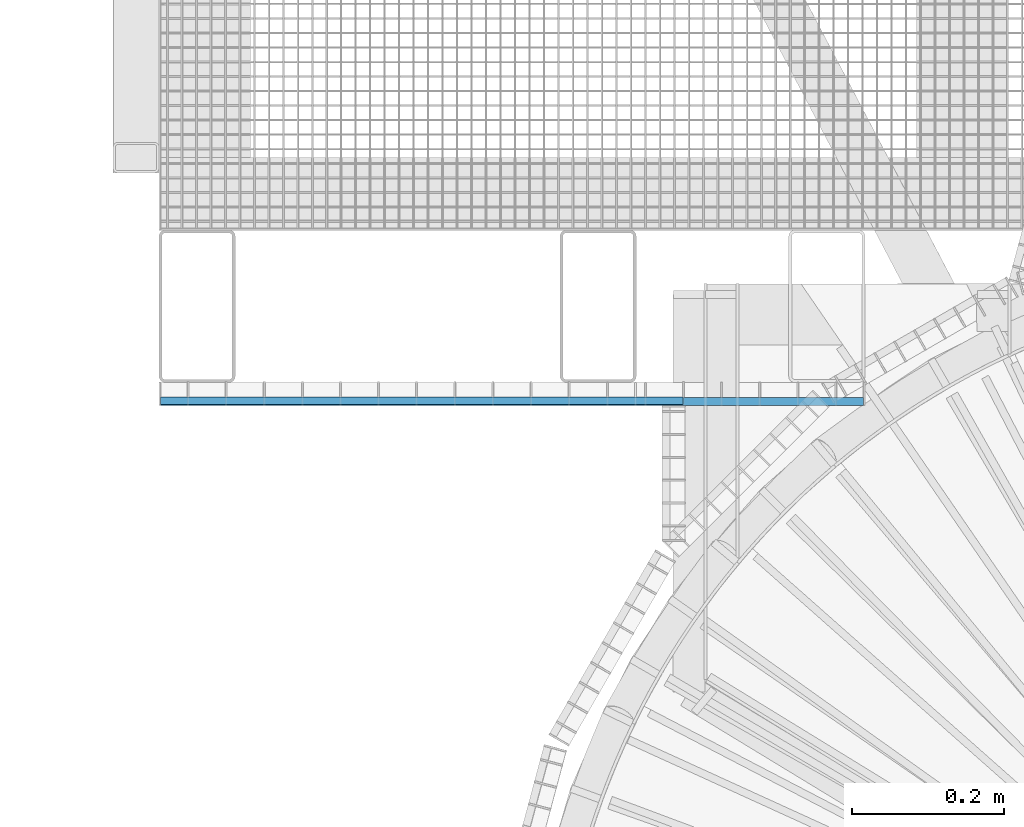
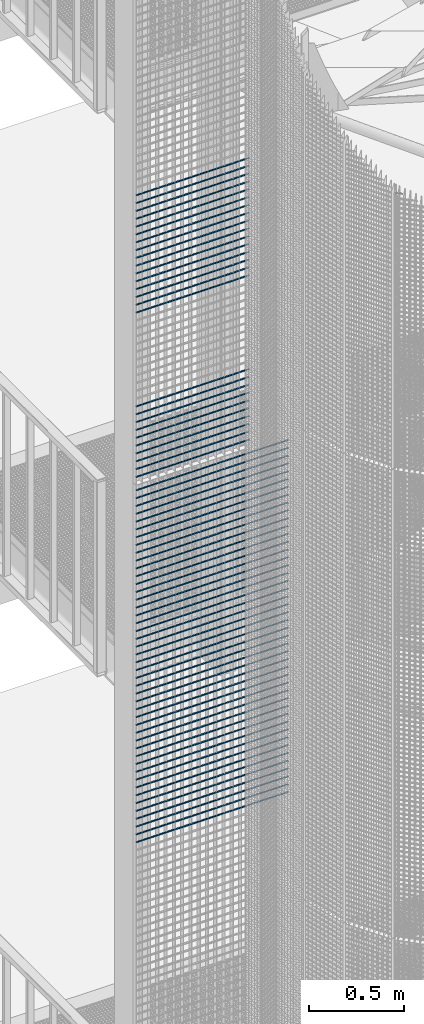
# One storey, part 214 of 1183: 72 beams, 2 elements without a shape of their own.
"""IFC2X3 building model written with IfcOpenShell, lengths in millimetres."""

from ifc_helpers import new_model, si_unit, frame, origin_with_axes, origin_2d_with_axis, place, context, subcontext, project, spatial, rectangle, extrude, material, type_object, element, aggregate, save


model = new_model("IFC2X3")

# Units and contexts
model_context = context("Model", 3, precision=1e-05, world=origin_with_axes())
body_context = subcontext(model_context, "Body", "Model", "MODEL_VIEW")
ifc_project = project(units=[si_unit("LENGTHUNIT", "METRE", prefix="MILLI"), si_unit("AREAUNIT", "SQUARE_METRE"), si_unit("VOLUMEUNIT", "CUBIC_METRE"), si_unit("MASSUNIT", "GRAM", prefix="KILO"), si_unit("TIMEUNIT", "SECOND"), si_unit("PLANEANGLEUNIT", "RADIAN"), si_unit("SOLIDANGLEUNIT", "STERADIAN"), si_unit("THERMODYNAMICTEMPERATUREUNIT", "DEGREE_CELSIUS"), si_unit("LUMINOUSINTENSITYUNIT", "LUMEN")], contexts=[model_context])

# Site, building, storey
site_placement = place(None, origin_with_axes())
site = spatial("IfcSite", under=ifc_project, at=site_placement, Name="Undefined", CompositionType="ELEMENT")
building_placement = place(site_placement, origin_with_axes())
building = spatial("IfcBuilding", under=site, at=building_placement, Name="Undefined", CompositionType="ELEMENT")
storey_placement = place(building_placement, origin_with_axes())
storey = spatial("IfcBuildingStorey", under=building, at=storey_placement, Name="Undefined", CompositionType="ELEMENT", Elevation=0.0)

# Assembly, beams
assembly_1_placement = place(storey_placement, origin_with_axes())
assembly_1 = element("IfcElementAssembly", 1, at=assembly_1_placement, inside=storey, Name="BORDURE", AssemblyPlace="NOTDEFINED", PredefinedType="NOTDEFINED")
ifc_material = material(Name="STEEL/S235JR")
beam_type = type_object("IfcBeamType", Name="PL2*10", PredefinedType="NOTDEFINED")
beam_1_placement = place(assembly_1_placement, frame((-1547.92041016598, 875.994689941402, 12289.998), z_axis=(0.0, -1.0, 0.0), x_axis=(1.0, 0.0, 0.0)))
beam_1 = element("IfcBeam", 2, at=beam_1_placement, type_object=beam_type, material=ifc_material, Name="ENTRETOISE", context=body_context, shape_type="SweptSolid", body=[
    extrude(rectangle(XDim=2.0, YDim=10.0, at=origin_2d_with_axis()), frame((685.0, 0.0, 0.0), z_axis=(-1.0, 0.0, 0.0), x_axis=(0.0, -1.0, 0.0)), (0.0, 0.0, 1.0), 685.0),
])
beam_2_placement = place(assembly_1_placement, frame((-1547.92041016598, 875.994689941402, 11689.998), z_axis=(0.0, -1.0, 0.0), x_axis=(1.0, 0.0, 0.0)))
beam_2 = element("IfcBeam", 3, at=beam_2_placement, type_object=beam_type, material=ifc_material, Name="ENTRETOISE", context=body_context, shape_type="SweptSolid", body=[
    extrude(rectangle(XDim=2.0, YDim=10.0, at=origin_2d_with_axis()), frame((685.0, 0.0, 0.0), z_axis=(-1.0, 0.0, 0.0), x_axis=(0.0, -1.0, 0.0)), (0.0, 0.0, 1.0), 685.0),
])
beam_3_placement = place(assembly_1_placement, frame((-1547.92041016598, 875.994689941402, 12339.998), z_axis=(0.0, -1.0, 0.0), x_axis=(1.0, 0.0, 0.0)))
beam_3 = element("IfcBeam", 4, at=beam_3_placement, type_object=beam_type, material=ifc_material, Name="ENTRETOISE", context=body_context, shape_type="SweptSolid", body=[
    extrude(rectangle(XDim=2.0, YDim=10.0, at=origin_2d_with_axis()), frame((685.0, 0.0, 0.0), z_axis=(-1.0, 0.0, 0.0), x_axis=(0.0, -1.0, 0.0)), (0.0, 0.0, 1.0), 685.0),
])
beam_4_placement = place(assembly_1_placement, frame((-1547.92041016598, 875.994689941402, 12389.998), z_axis=(0.0, -1.0, 0.0), x_axis=(1.0, 0.0, 0.0)))
beam_4 = element("IfcBeam", 5, at=beam_4_placement, type_object=beam_type, material=ifc_material, Name="ENTRETOISE", context=body_context, shape_type="SweptSolid", body=[
    extrude(rectangle(XDim=2.0, YDim=10.0, at=origin_2d_with_axis()), frame((685.0, 0.0, 0.0), z_axis=(-1.0, 0.0, 0.0), x_axis=(0.0, -1.0, 0.0)), (0.0, 0.0, 1.0), 685.0),
])
beam_5_placement = place(assembly_1_placement, frame((-1547.92041016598, 875.994689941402, 11639.998), z_axis=(0.0, -1.0, 0.0), x_axis=(1.0, 0.0, 0.0)))
beam_5 = element("IfcBeam", 6, at=beam_5_placement, type_object=beam_type, material=ifc_material, Name="ENTRETOISE", context=body_context, shape_type="SweptSolid", body=[
    extrude(rectangle(XDim=2.0, YDim=10.0, at=origin_2d_with_axis()), frame((685.0, 0.0, 0.0), z_axis=(-1.0, 0.0, 0.0), x_axis=(0.0, -1.0, 0.0)), (0.0, 0.0, 1.0), 685.0),
])
beam_6_placement = place(assembly_1_placement, frame((-1547.92041016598, 875.994689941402, 12439.998), z_axis=(0.0, -1.0, 0.0), x_axis=(1.0, 0.0, 0.0)))
beam_6 = element("IfcBeam", 7, at=beam_6_placement, type_object=beam_type, material=ifc_material, Name="ENTRETOISE", context=body_context, shape_type="SweptSolid", body=[
    extrude(rectangle(XDim=2.0, YDim=10.0, at=origin_2d_with_axis()), frame((685.0, 0.0, 0.0), z_axis=(-1.0, 0.0, 0.0), x_axis=(0.0, -1.0, 0.0)), (0.0, 0.0, 1.0), 685.0),
])
beam_7_placement = place(assembly_1_placement, frame((-1547.92041016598, 875.994689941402, 12489.998), z_axis=(0.0, -1.0, 0.0), x_axis=(1.0, 0.0, 0.0)))
beam_7 = element("IfcBeam", 8, at=beam_7_placement, type_object=beam_type, material=ifc_material, Name="ENTRETOISE", context=body_context, shape_type="SweptSolid", body=[
    extrude(rectangle(XDim=2.0, YDim=10.0, at=origin_2d_with_axis()), frame((685.0, 0.0, 0.0), z_axis=(-1.0, 0.0, 0.0), x_axis=(0.0, -1.0, 0.0)), (0.0, 0.0, 1.0), 685.0),
])
beam_8_placement = place(assembly_1_placement, frame((-1547.92041016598, 875.994689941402, 11589.998), z_axis=(0.0, -1.0, 0.0), x_axis=(1.0, 0.0, 0.0)))
beam_8 = element("IfcBeam", 9, at=beam_8_placement, type_object=beam_type, material=ifc_material, Name="ENTRETOISE", context=body_context, shape_type="SweptSolid", body=[
    extrude(rectangle(XDim=2.0, YDim=10.0, at=origin_2d_with_axis()), frame((685.0, 0.0, 0.0), z_axis=(-1.0, 0.0, 0.0), x_axis=(0.0, -1.0, 0.0)), (0.0, 0.0, 1.0), 685.0),
])
beam_9_placement = place(assembly_1_placement, frame((-1547.92041016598, 875.994689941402, 12539.998), z_axis=(0.0, -1.0, 0.0), x_axis=(1.0, 0.0, 0.0)))
beam_9 = element("IfcBeam", 10, at=beam_9_placement, type_object=beam_type, material=ifc_material, Name="ENTRETOISE", context=body_context, shape_type="SweptSolid", body=[
    extrude(rectangle(XDim=2.0, YDim=10.0, at=origin_2d_with_axis()), frame((685.0, 0.0, 0.0), z_axis=(-1.0, 0.0, 0.0), x_axis=(0.0, -1.0, 0.0)), (0.0, 0.0, 1.0), 685.0),
])
beam_10_placement = place(assembly_1_placement, frame((-1547.92041016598, 875.994689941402, 11539.998), z_axis=(0.0, -1.0, 0.0), x_axis=(1.0, 0.0, 0.0)))
beam_10 = element("IfcBeam", 11, at=beam_10_placement, type_object=beam_type, material=ifc_material, Name="ENTRETOISE", context=body_context, shape_type="SweptSolid", body=[
    extrude(rectangle(XDim=2.0, YDim=10.0, at=origin_2d_with_axis()), frame((685.0, 0.0, 0.0), z_axis=(-1.0, 0.0, 0.0), x_axis=(0.0, -1.0, 0.0)), (0.0, 0.0, 1.0), 685.0),
])
beam_11_placement = place(assembly_1_placement, frame((-1547.92041016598, 875.994689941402, 12589.998), z_axis=(0.0, -1.0, 0.0), x_axis=(1.0, 0.0, 0.0)))
beam_11 = element("IfcBeam", 12, at=beam_11_placement, type_object=beam_type, material=ifc_material, Name="ENTRETOISE", context=body_context, shape_type="SweptSolid", body=[
    extrude(rectangle(XDim=2.0, YDim=10.0, at=origin_2d_with_axis()), frame((685.0, 0.0, 0.0), z_axis=(-1.0, 0.0, 0.0), x_axis=(0.0, -1.0, 0.0)), (0.0, 0.0, 1.0), 685.0),
])
beam_12_placement = place(assembly_1_placement, frame((-1547.92041016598, 875.994689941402, 12639.998), z_axis=(0.0, -1.0, 0.0), x_axis=(1.0, 0.0, 0.0)))
beam_12 = element("IfcBeam", 13, at=beam_12_placement, type_object=beam_type, material=ifc_material, Name="ENTRETOISE", context=body_context, shape_type="SweptSolid", body=[
    extrude(rectangle(XDim=2.0, YDim=10.0, at=origin_2d_with_axis()), frame((685.0, 0.0, 0.0), z_axis=(-1.0, 0.0, 0.0), x_axis=(0.0, -1.0, 0.0)), (0.0, 0.0, 1.0), 685.0),
])
beam_13_placement = place(assembly_1_placement, frame((-1547.92041016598, 875.994689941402, 11489.998), z_axis=(0.0, -1.0, 0.0), x_axis=(1.0, 0.0, 0.0)))
beam_13 = element("IfcBeam", 14, at=beam_13_placement, type_object=beam_type, material=ifc_material, Name="ENTRETOISE", context=body_context, shape_type="SweptSolid", body=[
    extrude(rectangle(XDim=2.0, YDim=10.0, at=origin_2d_with_axis()), frame((685.0, 0.0, 0.0), z_axis=(-1.0, 0.0, 0.0), x_axis=(0.0, -1.0, 0.0)), (0.0, 0.0, 1.0), 685.0),
])
beam_14_placement = place(assembly_1_placement, frame((-1547.92041016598, 875.994689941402, 12689.998), z_axis=(0.0, -1.0, 0.0), x_axis=(1.0, 0.0, 0.0)))
beam_14 = element("IfcBeam", 15, at=beam_14_placement, type_object=beam_type, material=ifc_material, Name="ENTRETOISE", context=body_context, shape_type="SweptSolid", body=[
    extrude(rectangle(XDim=2.0, YDim=10.0, at=origin_2d_with_axis()), frame((685.0, 0.0, 0.0), z_axis=(-1.0, 0.0, 0.0), x_axis=(0.0, -1.0, 0.0)), (0.0, 0.0, 1.0), 685.0),
])
beam_15_placement = place(assembly_1_placement, frame((-1547.92041016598, 875.994689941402, 11439.998), z_axis=(0.0, -1.0, 0.0), x_axis=(1.0, 0.0, 0.0)))
beam_15 = element("IfcBeam", 16, at=beam_15_placement, type_object=beam_type, material=ifc_material, Name="ENTRETOISE", context=body_context, shape_type="SweptSolid", body=[
    extrude(rectangle(XDim=2.0, YDim=10.0, at=origin_2d_with_axis()), frame((685.0, 0.0, 0.0), z_axis=(-1.0, 0.0, 0.0), x_axis=(0.0, -1.0, 0.0)), (0.0, 0.0, 1.0), 685.0),
])
beam_16_placement = place(assembly_1_placement, frame((-1547.92041016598, 875.994689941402, 12739.998), z_axis=(0.0, -1.0, 0.0), x_axis=(1.0, 0.0, 0.0)))
beam_16 = element("IfcBeam", 17, at=beam_16_placement, type_object=beam_type, material=ifc_material, Name="ENTRETOISE", context=body_context, shape_type="SweptSolid", body=[
    extrude(rectangle(XDim=2.0, YDim=10.0, at=origin_2d_with_axis()), frame((685.0, 0.0, 0.0), z_axis=(-1.0, 0.0, 0.0), x_axis=(0.0, -1.0, 0.0)), (0.0, 0.0, 1.0), 685.0),
])
beam_17_placement = place(assembly_1_placement, frame((-1547.92041016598, 875.994689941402, 12789.998), z_axis=(0.0, -1.0, 0.0), x_axis=(1.0, 0.0, 0.0)))
beam_17 = element("IfcBeam", 18, at=beam_17_placement, type_object=beam_type, material=ifc_material, Name="ENTRETOISE", context=body_context, shape_type="SweptSolid", body=[
    extrude(rectangle(XDim=2.0, YDim=10.0, at=origin_2d_with_axis()), frame((685.0, 0.0, 0.0), z_axis=(-1.0, 0.0, 0.0), x_axis=(0.0, -1.0, 0.0)), (0.0, 0.0, 1.0), 685.0),
])
beam_18_placement = place(assembly_1_placement, frame((-1547.92041016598, 875.994689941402, 11389.998), z_axis=(0.0, -1.0, 0.0), x_axis=(1.0, 0.0, 0.0)))
beam_18 = element("IfcBeam", 19, at=beam_18_placement, type_object=beam_type, material=ifc_material, Name="ENTRETOISE", context=body_context, shape_type="SweptSolid", body=[
    extrude(rectangle(XDim=2.0, YDim=10.0, at=origin_2d_with_axis()), frame((685.0, 0.0, 0.0), z_axis=(-1.0, 0.0, 0.0), x_axis=(0.0, -1.0, 0.0)), (0.0, 0.0, 1.0), 685.0),
])
beam_19_placement = place(assembly_1_placement, frame((-1547.92041016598, 875.994689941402, 12839.998), z_axis=(0.0, -1.0, 0.0), x_axis=(1.0, 0.0, 0.0)))
beam_19 = element("IfcBeam", 20, at=beam_19_placement, type_object=beam_type, material=ifc_material, Name="ENTRETOISE", context=body_context, shape_type="SweptSolid", body=[
    extrude(rectangle(XDim=2.0, YDim=10.0, at=origin_2d_with_axis()), frame((685.0, 0.0, 0.0), z_axis=(-1.0, 0.0, 0.0), x_axis=(0.0, -1.0, 0.0)), (0.0, 0.0, 1.0), 685.0),
])
beam_20_placement = place(assembly_1_placement, frame((-1547.92041016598, 875.994689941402, 12889.998), z_axis=(0.0, -1.0, 0.0), x_axis=(1.0, 0.0, 0.0)))
beam_20 = element("IfcBeam", 21, at=beam_20_placement, type_object=beam_type, material=ifc_material, Name="ENTRETOISE", context=body_context, shape_type="SweptSolid", body=[
    extrude(rectangle(XDim=2.0, YDim=10.0, at=origin_2d_with_axis()), frame((685.0, 0.0, 0.0), z_axis=(-1.0, 0.0, 0.0), x_axis=(0.0, -1.0, 0.0)), (0.0, 0.0, 1.0), 685.0),
])
beam_21_placement = place(assembly_1_placement, frame((-1547.92041016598, 875.994689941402, 11339.998), z_axis=(0.0, -1.0, 0.0), x_axis=(1.0, 0.0, 0.0)))
beam_21 = element("IfcBeam", 22, at=beam_21_placement, type_object=beam_type, material=ifc_material, Name="ENTRETOISE", context=body_context, shape_type="SweptSolid", body=[
    extrude(rectangle(XDim=2.0, YDim=10.0, at=origin_2d_with_axis()), frame((685.0, 0.0, 0.0), z_axis=(-1.0, 0.0, 0.0), x_axis=(0.0, -1.0, 0.0)), (0.0, 0.0, 1.0), 685.0),
])
beam_22_placement = place(assembly_1_placement, frame((-1547.92041016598, 875.994689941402, 12939.998), z_axis=(0.0, -1.0, 0.0), x_axis=(1.0, 0.0, 0.0)))
beam_22 = element("IfcBeam", 23, at=beam_22_placement, type_object=beam_type, material=ifc_material, Name="ENTRETOISE", context=body_context, shape_type="SweptSolid", body=[
    extrude(rectangle(XDim=2.0, YDim=10.0, at=origin_2d_with_axis()), frame((685.0, 0.0, 0.0), z_axis=(-1.0, 0.0, 0.0), x_axis=(0.0, -1.0, 0.0)), (0.0, 0.0, 1.0), 685.0),
])
beam_23_placement = place(assembly_1_placement, frame((-1547.92041016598, 875.994689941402, 11289.998), z_axis=(0.0, -1.0, 0.0), x_axis=(1.0, 0.0, 0.0)))
beam_23 = element("IfcBeam", 24, at=beam_23_placement, type_object=beam_type, material=ifc_material, Name="ENTRETOISE", context=body_context, shape_type="SweptSolid", body=[
    extrude(rectangle(XDim=2.0, YDim=10.0, at=origin_2d_with_axis()), frame((685.0, 0.0, 0.0), z_axis=(-1.0, 0.0, 0.0), x_axis=(0.0, -1.0, 0.0)), (0.0, 0.0, 1.0), 685.0),
])
beam_24_placement = place(assembly_1_placement, frame((-1547.92041016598, 875.994689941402, 12989.998), z_axis=(0.0, -1.0, 0.0), x_axis=(1.0, 0.0, 0.0)))
beam_24 = element("IfcBeam", 25, at=beam_24_placement, type_object=beam_type, material=ifc_material, Name="ENTRETOISE", context=body_context, shape_type="SweptSolid", body=[
    extrude(rectangle(XDim=2.0, YDim=10.0, at=origin_2d_with_axis()), frame((685.0, 0.0, 0.0), z_axis=(-1.0, 0.0, 0.0), x_axis=(0.0, -1.0, 0.0)), (0.0, 0.0, 1.0), 685.0),
])
beam_25_placement = place(assembly_1_placement, frame((-1547.92041016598, 875.994689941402, 13039.998), z_axis=(0.0, -1.0, 0.0), x_axis=(1.0, 0.0, 0.0)))
beam_25 = element("IfcBeam", 26, at=beam_25_placement, type_object=beam_type, material=ifc_material, Name="ENTRETOISE", context=body_context, shape_type="SweptSolid", body=[
    extrude(rectangle(XDim=2.0, YDim=10.0, at=origin_2d_with_axis()), frame((685.0, 0.0, 0.0), z_axis=(-1.0, 0.0, 0.0), x_axis=(0.0, -1.0, 0.0)), (0.0, 0.0, 1.0), 685.0),
])
beam_26_placement = place(assembly_1_placement, frame((-1547.92041016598, 874.994689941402, 11239.998), z_axis=(0.0, -1.0, 0.0), x_axis=(1.0, 0.0, 0.0)))
beam_26 = element("IfcBeam", 27, at=beam_26_placement, type_object=beam_type, material=ifc_material, Name="ENTRETOISE", context=body_context, shape_type="SweptSolid", body=[
    extrude(rectangle(XDim=2.0, YDim=10.0, at=origin_2d_with_axis()), frame((685.0, 0.0, 0.0), z_axis=(-1.0, 0.0, 0.0), x_axis=(0.0, -1.0, 0.0)), (0.0, 0.0, 1.0), 685.0),
])
aggregate(assembly_1, [beam_1, beam_2, beam_3, beam_4, beam_5, beam_6, beam_7, beam_8, beam_9, beam_10, beam_11, beam_12, beam_13, beam_14, beam_15, beam_16, beam_17, beam_18, beam_19, beam_20, beam_21, beam_22, beam_23, beam_24, beam_25, beam_26])

assembly_2_placement = place(storey_placement, origin_with_axes())
assembly_2 = element("IfcElementAssembly", 28, at=assembly_2_placement, inside=storey, Name="BORDURE", AssemblyPlace="NOTDEFINED", PredefinedType="NOTDEFINED")
beam_27_placement = place(assembly_2_placement, frame((-1547.92041016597, 874.994689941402, 11154.998), z_axis=(0.0, -1.0, 0.0), x_axis=(1.0, 0.0, 0.0)))
beam_27 = element("IfcBeam", 29, at=beam_27_placement, type_object=beam_type, material=ifc_material, Name="ENTRETOISE", context=body_context, shape_type="SweptSolid", body=[
    extrude(rectangle(XDim=2.0, YDim=10.0, at=origin_2d_with_axis()), frame((922.0, 0.0, 0.0), z_axis=(-1.0, 0.0, 0.0), x_axis=(0.0, -1.0, 0.0)), (0.0, 0.0, 1.0), 922.0),
])
beam_28_placement = place(assembly_2_placement, frame((-1547.92041016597, 874.994689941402, 11104.998), z_axis=(0.0, -1.0, 0.0), x_axis=(1.0, 0.0, 0.0)))
beam_28 = element("IfcBeam", 30, at=beam_28_placement, type_object=beam_type, material=ifc_material, Name="ENTRETOISE", context=body_context, shape_type="SweptSolid", body=[
    extrude(rectangle(XDim=2.0, YDim=10.0, at=origin_2d_with_axis()), frame((922.0, 0.0, 0.0), z_axis=(-1.0, 0.0, 0.0), x_axis=(0.0, -1.0, 0.0)), (0.0, 0.0, 1.0), 922.0),
])
beam_29_placement = place(assembly_2_placement, frame((-1547.92041016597, 874.994689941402, 11054.998), z_axis=(0.0, -1.0, 0.0), x_axis=(1.0, 0.0, 0.0)))
beam_29 = element("IfcBeam", 31, at=beam_29_placement, type_object=beam_type, material=ifc_material, Name="ENTRETOISE", context=body_context, shape_type="SweptSolid", body=[
    extrude(rectangle(XDim=2.0, YDim=10.0, at=origin_2d_with_axis()), frame((922.0, 0.0, 0.0), z_axis=(-1.0, 0.0, 0.0), x_axis=(0.0, -1.0, 0.0)), (0.0, 0.0, 1.0), 922.0),
])
beam_30_placement = place(assembly_2_placement, frame((-1547.92041016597, 874.994689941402, 11004.998), z_axis=(0.0, -1.0, 0.0), x_axis=(1.0, 0.0, 0.0)))
beam_30 = element("IfcBeam", 32, at=beam_30_placement, type_object=beam_type, material=ifc_material, Name="ENTRETOISE", context=body_context, shape_type="SweptSolid", body=[
    extrude(rectangle(XDim=2.0, YDim=10.0, at=origin_2d_with_axis()), frame((922.0, 0.0, 0.0), z_axis=(-1.0, 0.0, 0.0), x_axis=(0.0, -1.0, 0.0)), (0.0, 0.0, 1.0), 922.0),
])
beam_31_placement = place(assembly_2_placement, frame((-1547.92041016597, 874.994689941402, 10954.998), z_axis=(0.0, -1.0, 0.0), x_axis=(1.0, 0.0, 0.0)))
beam_31 = element("IfcBeam", 33, at=beam_31_placement, type_object=beam_type, material=ifc_material, Name="ENTRETOISE", context=body_context, shape_type="SweptSolid", body=[
    extrude(rectangle(XDim=2.0, YDim=10.0, at=origin_2d_with_axis()), frame((922.0, 0.0, 0.0), z_axis=(-1.0, 0.0, 0.0), x_axis=(0.0, -1.0, 0.0)), (0.0, 0.0, 1.0), 922.0),
])
beam_32_placement = place(assembly_2_placement, frame((-1547.92041016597, 874.994689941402, 10904.998), z_axis=(0.0, -1.0, 0.0), x_axis=(1.0, 0.0, 0.0)))
beam_32 = element("IfcBeam", 34, at=beam_32_placement, type_object=beam_type, material=ifc_material, Name="ENTRETOISE", context=body_context, shape_type="SweptSolid", body=[
    extrude(rectangle(XDim=2.0, YDim=10.0, at=origin_2d_with_axis()), frame((922.0, 0.0, 0.0), z_axis=(-1.0, 0.0, 0.0), x_axis=(0.0, -1.0, 0.0)), (0.0, 0.0, 1.0), 922.0),
])
beam_33_placement = place(assembly_2_placement, frame((-1547.92041016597, 874.994689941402, 10854.998), z_axis=(0.0, -1.0, 0.0), x_axis=(1.0, 0.0, 0.0)))
beam_33 = element("IfcBeam", 35, at=beam_33_placement, type_object=beam_type, material=ifc_material, Name="ENTRETOISE", context=body_context, shape_type="SweptSolid", body=[
    extrude(rectangle(XDim=2.0, YDim=10.0, at=origin_2d_with_axis()), frame((922.0, 0.0, 0.0), z_axis=(-1.0, 0.0, 0.0), x_axis=(0.0, -1.0, 0.0)), (0.0, 0.0, 1.0), 922.0),
])
beam_34_placement = place(assembly_2_placement, frame((-1547.92041016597, 874.994689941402, 10804.998), z_axis=(0.0, -1.0, 0.0), x_axis=(1.0, 0.0, 0.0)))
beam_34 = element("IfcBeam", 36, at=beam_34_placement, type_object=beam_type, material=ifc_material, Name="ENTRETOISE", context=body_context, shape_type="SweptSolid", body=[
    extrude(rectangle(XDim=2.0, YDim=10.0, at=origin_2d_with_axis()), frame((922.0, 0.0, 0.0), z_axis=(-1.0, 0.0, 0.0), x_axis=(0.0, -1.0, 0.0)), (0.0, 0.0, 1.0), 922.0),
])
beam_35_placement = place(assembly_2_placement, frame((-1547.92041016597, 874.994689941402, 10754.998), z_axis=(0.0, -1.0, 0.0), x_axis=(1.0, 0.0, 0.0)))
beam_35 = element("IfcBeam", 37, at=beam_35_placement, type_object=beam_type, material=ifc_material, Name="ENTRETOISE", context=body_context, shape_type="SweptSolid", body=[
    extrude(rectangle(XDim=2.0, YDim=10.0, at=origin_2d_with_axis()), frame((922.0, 0.0, 0.0), z_axis=(-1.0, 0.0, 0.0), x_axis=(0.0, -1.0, 0.0)), (0.0, 0.0, 1.0), 922.0),
])
beam_36_placement = place(assembly_2_placement, frame((-1547.92041016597, 874.994689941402, 10704.998), z_axis=(0.0, -1.0, 0.0), x_axis=(1.0, 0.0, 0.0)))
beam_36 = element("IfcBeam", 38, at=beam_36_placement, type_object=beam_type, material=ifc_material, Name="ENTRETOISE", context=body_context, shape_type="SweptSolid", body=[
    extrude(rectangle(XDim=2.0, YDim=10.0, at=origin_2d_with_axis()), frame((922.0, 0.0, 0.0), z_axis=(-1.0, 0.0, 0.0), x_axis=(0.0, -1.0, 0.0)), (0.0, 0.0, 1.0), 922.0),
])
beam_37_placement = place(assembly_2_placement, frame((-1547.92041016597, 874.994689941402, 10654.998), z_axis=(0.0, -1.0, 0.0), x_axis=(1.0, 0.0, 0.0)))
beam_37 = element("IfcBeam", 39, at=beam_37_placement, type_object=beam_type, material=ifc_material, Name="ENTRETOISE", context=body_context, shape_type="SweptSolid", body=[
    extrude(rectangle(XDim=2.0, YDim=10.0, at=origin_2d_with_axis()), frame((922.0, 0.0, 0.0), z_axis=(-1.0, 0.0, 0.0), x_axis=(0.0, -1.0, 0.0)), (0.0, 0.0, 1.0), 922.0),
])
beam_38_placement = place(assembly_2_placement, frame((-1547.92041016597, 874.994689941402, 10604.998), z_axis=(0.0, -1.0, 0.0), x_axis=(1.0, 0.0, 0.0)))
beam_38 = element("IfcBeam", 40, at=beam_38_placement, type_object=beam_type, material=ifc_material, Name="ENTRETOISE", context=body_context, shape_type="SweptSolid", body=[
    extrude(rectangle(XDim=2.0, YDim=10.0, at=origin_2d_with_axis()), frame((922.0, 0.0, 0.0), z_axis=(-1.0, 0.0, 0.0), x_axis=(0.0, -1.0, 0.0)), (0.0, 0.0, 1.0), 922.0),
])
beam_39_placement = place(assembly_2_placement, frame((-1547.92041016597, 874.994689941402, 10554.998), z_axis=(0.0, -1.0, 0.0), x_axis=(1.0, 0.0, 0.0)))
beam_39 = element("IfcBeam", 41, at=beam_39_placement, type_object=beam_type, material=ifc_material, Name="ENTRETOISE", context=body_context, shape_type="SweptSolid", body=[
    extrude(rectangle(XDim=2.0, YDim=10.0, at=origin_2d_with_axis()), frame((922.0, 0.0, 0.0), z_axis=(-1.0, 0.0, 0.0), x_axis=(0.0, -1.0, 0.0)), (0.0, 0.0, 1.0), 922.0),
])
beam_40_placement = place(assembly_2_placement, frame((-1547.92041016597, 874.994689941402, 10504.998), z_axis=(0.0, -1.0, 0.0), x_axis=(1.0, 0.0, 0.0)))
beam_40 = element("IfcBeam", 42, at=beam_40_placement, type_object=beam_type, material=ifc_material, Name="ENTRETOISE", context=body_context, shape_type="SweptSolid", body=[
    extrude(rectangle(XDim=2.0, YDim=10.0, at=origin_2d_with_axis()), frame((922.0, 0.0, 0.0), z_axis=(-1.0, 0.0, 0.0), x_axis=(0.0, -1.0, 0.0)), (0.0, 0.0, 1.0), 922.0),
])
beam_41_placement = place(assembly_2_placement, frame((-1547.92041016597, 874.994689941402, 10454.998), z_axis=(0.0, -1.0, 0.0), x_axis=(1.0, 0.0, 0.0)))
beam_41 = element("IfcBeam", 43, at=beam_41_placement, type_object=beam_type, material=ifc_material, Name="ENTRETOISE", context=body_context, shape_type="SweptSolid", body=[
    extrude(rectangle(XDim=2.0, YDim=10.0, at=origin_2d_with_axis()), frame((922.0, 0.0, 0.0), z_axis=(-1.0, 0.0, 0.0), x_axis=(0.0, -1.0, 0.0)), (0.0, 0.0, 1.0), 922.0),
])
beam_42_placement = place(assembly_2_placement, frame((-1547.92041016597, 874.994689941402, 10404.998), z_axis=(0.0, -1.0, 0.0), x_axis=(1.0, 0.0, 0.0)))
beam_42 = element("IfcBeam", 44, at=beam_42_placement, type_object=beam_type, material=ifc_material, Name="ENTRETOISE", context=body_context, shape_type="SweptSolid", body=[
    extrude(rectangle(XDim=2.0, YDim=10.0, at=origin_2d_with_axis()), frame((922.0, 0.0, 0.0), z_axis=(-1.0, 0.0, 0.0), x_axis=(0.0, -1.0, 0.0)), (0.0, 0.0, 1.0), 922.0),
])
beam_43_placement = place(assembly_2_placement, frame((-1547.92041016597, 874.994689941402, 10354.998), z_axis=(0.0, -1.0, 0.0), x_axis=(1.0, 0.0, 0.0)))
beam_43 = element("IfcBeam", 45, at=beam_43_placement, type_object=beam_type, material=ifc_material, Name="ENTRETOISE", context=body_context, shape_type="SweptSolid", body=[
    extrude(rectangle(XDim=2.0, YDim=10.0, at=origin_2d_with_axis()), frame((922.0, 0.0, 0.0), z_axis=(-1.0, 0.0, 0.0), x_axis=(0.0, -1.0, 0.0)), (0.0, 0.0, 1.0), 922.0),
])
beam_44_placement = place(assembly_2_placement, frame((-1547.92041016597, 874.994689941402, 10304.998), z_axis=(0.0, -1.0, 0.0), x_axis=(1.0, 0.0, 0.0)))
beam_44 = element("IfcBeam", 46, at=beam_44_placement, type_object=beam_type, material=ifc_material, Name="ENTRETOISE", context=body_context, shape_type="SweptSolid", body=[
    extrude(rectangle(XDim=2.0, YDim=10.0, at=origin_2d_with_axis()), frame((922.0, 0.0, 0.0), z_axis=(-1.0, 0.0, 0.0), x_axis=(0.0, -1.0, 0.0)), (0.0, 0.0, 1.0), 922.0),
])
beam_45_placement = place(assembly_2_placement, frame((-1547.92041016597, 874.994689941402, 10254.998), z_axis=(0.0, -1.0, 0.0), x_axis=(1.0, 0.0, 0.0)))
beam_45 = element("IfcBeam", 47, at=beam_45_placement, type_object=beam_type, material=ifc_material, Name="ENTRETOISE", context=body_context, shape_type="SweptSolid", body=[
    extrude(rectangle(XDim=2.0, YDim=10.0, at=origin_2d_with_axis()), frame((922.0, 0.0, 0.0), z_axis=(-1.0, 0.0, 0.0), x_axis=(0.0, -1.0, 0.0)), (0.0, 0.0, 1.0), 922.0),
])
beam_46_placement = place(assembly_2_placement, frame((-1547.92041016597, 874.994689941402, 10204.998), z_axis=(0.0, -1.0, 0.0), x_axis=(1.0, 0.0, 0.0)))
beam_46 = element("IfcBeam", 48, at=beam_46_placement, type_object=beam_type, material=ifc_material, Name="ENTRETOISE", context=body_context, shape_type="SweptSolid", body=[
    extrude(rectangle(XDim=2.0, YDim=10.0, at=origin_2d_with_axis()), frame((922.0, 0.0, 0.0), z_axis=(-1.0, 0.0, 0.0), x_axis=(0.0, -1.0, 0.0)), (0.0, 0.0, 1.0), 922.0),
])
beam_47_placement = place(assembly_2_placement, frame((-1547.92041016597, 874.994689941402, 10154.998), z_axis=(0.0, -1.0, 0.0), x_axis=(1.0, 0.0, 0.0)))
beam_47 = element("IfcBeam", 49, at=beam_47_placement, type_object=beam_type, material=ifc_material, Name="ENTRETOISE", context=body_context, shape_type="SweptSolid", body=[
    extrude(rectangle(XDim=2.0, YDim=10.0, at=origin_2d_with_axis()), frame((922.0, 0.0, 0.0), z_axis=(-1.0, 0.0, 0.0), x_axis=(0.0, -1.0, 0.0)), (0.0, 0.0, 1.0), 922.0),
])
beam_48_placement = place(assembly_2_placement, frame((-1547.92041016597, 874.994689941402, 10104.998), z_axis=(0.0, -1.0, 0.0), x_axis=(1.0, 0.0, 0.0)))
beam_48 = element("IfcBeam", 50, at=beam_48_placement, type_object=beam_type, material=ifc_material, Name="ENTRETOISE", context=body_context, shape_type="SweptSolid", body=[
    extrude(rectangle(XDim=2.0, YDim=10.0, at=origin_2d_with_axis()), frame((922.0, 0.0, 0.0), z_axis=(-1.0, 0.0, 0.0), x_axis=(0.0, -1.0, 0.0)), (0.0, 0.0, 1.0), 922.0),
])
beam_49_placement = place(assembly_2_placement, frame((-1547.92041016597, 874.994689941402, 10054.998), z_axis=(0.0, -1.0, 0.0), x_axis=(1.0, 0.0, 0.0)))
beam_49 = element("IfcBeam", 51, at=beam_49_placement, type_object=beam_type, material=ifc_material, Name="ENTRETOISE", context=body_context, shape_type="SweptSolid", body=[
    extrude(rectangle(XDim=2.0, YDim=10.0, at=origin_2d_with_axis()), frame((922.0, 0.0, 0.0), z_axis=(-1.0, 0.0, 0.0), x_axis=(0.0, -1.0, 0.0)), (0.0, 0.0, 1.0), 922.0),
])
beam_50_placement = place(assembly_2_placement, frame((-1547.92041016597, 874.994689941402, 10004.998), z_axis=(0.0, -1.0, 0.0), x_axis=(1.0, 0.0, 0.0)))
beam_50 = element("IfcBeam", 52, at=beam_50_placement, type_object=beam_type, material=ifc_material, Name="ENTRETOISE", context=body_context, shape_type="SweptSolid", body=[
    extrude(rectangle(XDim=2.0, YDim=10.0, at=origin_2d_with_axis()), frame((922.0, 0.0, 0.0), z_axis=(-1.0, 0.0, 0.0), x_axis=(0.0, -1.0, 0.0)), (0.0, 0.0, 1.0), 922.0),
])
beam_51_placement = place(assembly_2_placement, frame((-1547.92041016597, 874.994689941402, 9954.998), z_axis=(0.0, -1.0, 0.0), x_axis=(1.0, 0.0, 0.0)))
beam_51 = element("IfcBeam", 53, at=beam_51_placement, type_object=beam_type, material=ifc_material, Name="ENTRETOISE", context=body_context, shape_type="SweptSolid", body=[
    extrude(rectangle(XDim=2.0, YDim=10.0, at=origin_2d_with_axis()), frame((922.0, 0.0, 0.0), z_axis=(-1.0, 0.0, 0.0), x_axis=(0.0, -1.0, 0.0)), (0.0, 0.0, 1.0), 922.0),
])
beam_52_placement = place(assembly_2_placement, frame((-1547.92041016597, 874.994689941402, 9904.998), z_axis=(0.0, -1.0, 0.0), x_axis=(1.0, 0.0, 0.0)))
beam_52 = element("IfcBeam", 54, at=beam_52_placement, type_object=beam_type, material=ifc_material, Name="ENTRETOISE", context=body_context, shape_type="SweptSolid", body=[
    extrude(rectangle(XDim=2.0, YDim=10.0, at=origin_2d_with_axis()), frame((922.0, 0.0, 0.0), z_axis=(-1.0, 0.0, 0.0), x_axis=(0.0, -1.0, 0.0)), (0.0, 0.0, 1.0), 922.0),
])
beam_53_placement = place(assembly_2_placement, frame((-1547.92041016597, 874.994689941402, 9854.998), z_axis=(0.0, -1.0, 0.0), x_axis=(1.0, 0.0, 0.0)))
beam_53 = element("IfcBeam", 55, at=beam_53_placement, type_object=beam_type, material=ifc_material, Name="ENTRETOISE", context=body_context, shape_type="SweptSolid", body=[
    extrude(rectangle(XDim=2.0, YDim=10.0, at=origin_2d_with_axis()), frame((922.0, 0.0, 0.0), z_axis=(-1.0, 0.0, 0.0), x_axis=(0.0, -1.0, 0.0)), (0.0, 0.0, 1.0), 922.0),
])
beam_54_placement = place(assembly_2_placement, frame((-1547.92041016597, 874.994689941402, 9804.998), z_axis=(0.0, -1.0, 0.0), x_axis=(1.0, 0.0, 0.0)))
beam_54 = element("IfcBeam", 56, at=beam_54_placement, type_object=beam_type, material=ifc_material, Name="ENTRETOISE", context=body_context, shape_type="SweptSolid", body=[
    extrude(rectangle(XDim=2.0, YDim=10.0, at=origin_2d_with_axis()), frame((922.0, 0.0, 0.0), z_axis=(-1.0, 0.0, 0.0), x_axis=(0.0, -1.0, 0.0)), (0.0, 0.0, 1.0), 922.0),
])
beam_55_placement = place(assembly_2_placement, frame((-1547.92041016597, 874.994689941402, 9754.998), z_axis=(0.0, -1.0, 0.0), x_axis=(1.0, 0.0, 0.0)))
beam_55 = element("IfcBeam", 57, at=beam_55_placement, type_object=beam_type, material=ifc_material, Name="ENTRETOISE", context=body_context, shape_type="SweptSolid", body=[
    extrude(rectangle(XDim=2.0, YDim=10.0, at=origin_2d_with_axis()), frame((922.0, 0.0, 0.0), z_axis=(-1.0, 0.0, 0.0), x_axis=(0.0, -1.0, 0.0)), (0.0, 0.0, 1.0), 922.0),
])
beam_56_placement = place(assembly_2_placement, frame((-1547.92041016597, 874.994689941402, 9704.998), z_axis=(0.0, -1.0, 0.0), x_axis=(1.0, 0.0, 0.0)))
beam_56 = element("IfcBeam", 58, at=beam_56_placement, type_object=beam_type, material=ifc_material, Name="ENTRETOISE", context=body_context, shape_type="SweptSolid", body=[
    extrude(rectangle(XDim=2.0, YDim=10.0, at=origin_2d_with_axis()), frame((922.0, 0.0, 0.0), z_axis=(-1.0, 0.0, 0.0), x_axis=(0.0, -1.0, 0.0)), (0.0, 0.0, 1.0), 922.0),
])
beam_57_placement = place(assembly_2_placement, frame((-1547.92041016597, 874.994689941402, 9654.998), z_axis=(0.0, -1.0, 0.0), x_axis=(1.0, 0.0, 0.0)))
beam_57 = element("IfcBeam", 59, at=beam_57_placement, type_object=beam_type, material=ifc_material, Name="ENTRETOISE", context=body_context, shape_type="SweptSolid", body=[
    extrude(rectangle(XDim=2.0, YDim=10.0, at=origin_2d_with_axis()), frame((922.0, 0.0, 0.0), z_axis=(-1.0, 0.0, 0.0), x_axis=(0.0, -1.0, 0.0)), (0.0, 0.0, 1.0), 922.0),
])
beam_58_placement = place(assembly_2_placement, frame((-1547.92041016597, 874.994689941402, 9604.998), z_axis=(0.0, -1.0, 0.0), x_axis=(1.0, 0.0, 0.0)))
beam_58 = element("IfcBeam", 60, at=beam_58_placement, type_object=beam_type, material=ifc_material, Name="ENTRETOISE", context=body_context, shape_type="SweptSolid", body=[
    extrude(rectangle(XDim=2.0, YDim=10.0, at=origin_2d_with_axis()), frame((922.0, 0.0, 0.0), z_axis=(-1.0, 0.0, 0.0), x_axis=(0.0, -1.0, 0.0)), (0.0, 0.0, 1.0), 922.0),
])
beam_59_placement = place(assembly_2_placement, frame((-1547.92041016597, 874.994689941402, 9554.998), z_axis=(0.0, -1.0, 0.0), x_axis=(1.0, 0.0, 0.0)))
beam_59 = element("IfcBeam", 61, at=beam_59_placement, type_object=beam_type, material=ifc_material, Name="ENTRETOISE", context=body_context, shape_type="SweptSolid", body=[
    extrude(rectangle(XDim=2.0, YDim=10.0, at=origin_2d_with_axis()), frame((922.0, 0.0, 0.0), z_axis=(-1.0, 0.0, 0.0), x_axis=(0.0, -1.0, 0.0)), (0.0, 0.0, 1.0), 922.0),
])
beam_60_placement = place(assembly_2_placement, frame((-1547.92041016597, 874.994689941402, 9504.998), z_axis=(0.0, -1.0, 0.0), x_axis=(1.0, 0.0, 0.0)))
beam_60 = element("IfcBeam", 62, at=beam_60_placement, type_object=beam_type, material=ifc_material, Name="ENTRETOISE", context=body_context, shape_type="SweptSolid", body=[
    extrude(rectangle(XDim=2.0, YDim=10.0, at=origin_2d_with_axis()), frame((922.0, 0.0, 0.0), z_axis=(-1.0, 0.0, 0.0), x_axis=(0.0, -1.0, 0.0)), (0.0, 0.0, 1.0), 922.0),
])
beam_61_placement = place(assembly_2_placement, frame((-1547.92041016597, 874.994689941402, 9454.998), z_axis=(0.0, -1.0, 0.0), x_axis=(1.0, 0.0, 0.0)))
beam_61 = element("IfcBeam", 63, at=beam_61_placement, type_object=beam_type, material=ifc_material, Name="ENTRETOISE", context=body_context, shape_type="SweptSolid", body=[
    extrude(rectangle(XDim=2.0, YDim=10.0, at=origin_2d_with_axis()), frame((922.0, 0.0, 0.0), z_axis=(-1.0, 0.0, 0.0), x_axis=(0.0, -1.0, 0.0)), (0.0, 0.0, 1.0), 922.0),
])
beam_62_placement = place(assembly_2_placement, frame((-1547.92041016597, 874.994689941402, 9404.998), z_axis=(0.0, -1.0, 0.0), x_axis=(1.0, 0.0, 0.0)))
beam_62 = element("IfcBeam", 64, at=beam_62_placement, type_object=beam_type, material=ifc_material, Name="ENTRETOISE", context=body_context, shape_type="SweptSolid", body=[
    extrude(rectangle(XDim=2.0, YDim=10.0, at=origin_2d_with_axis()), frame((922.0, 0.0, 0.0), z_axis=(-1.0, 0.0, 0.0), x_axis=(0.0, -1.0, 0.0)), (0.0, 0.0, 1.0), 922.0),
])
beam_63_placement = place(assembly_2_placement, frame((-1547.92041016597, 874.994689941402, 9354.998), z_axis=(0.0, -1.0, 0.0), x_axis=(1.0, 0.0, 0.0)))
beam_63 = element("IfcBeam", 65, at=beam_63_placement, type_object=beam_type, material=ifc_material, Name="ENTRETOISE", context=body_context, shape_type="SweptSolid", body=[
    extrude(rectangle(XDim=2.0, YDim=10.0, at=origin_2d_with_axis()), frame((922.0, 0.0, 0.0), z_axis=(-1.0, 0.0, 0.0), x_axis=(0.0, -1.0, 0.0)), (0.0, 0.0, 1.0), 922.0),
])
beam_64_placement = place(assembly_2_placement, frame((-1547.92041016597, 874.994689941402, 9304.998), z_axis=(0.0, -1.0, 0.0), x_axis=(1.0, 0.0, 0.0)))
beam_64 = element("IfcBeam", 66, at=beam_64_placement, type_object=beam_type, material=ifc_material, Name="ENTRETOISE", context=body_context, shape_type="SweptSolid", body=[
    extrude(rectangle(XDim=2.0, YDim=10.0, at=origin_2d_with_axis()), frame((922.0, 0.0, 0.0), z_axis=(-1.0, 0.0, 0.0), x_axis=(0.0, -1.0, 0.0)), (0.0, 0.0, 1.0), 922.0),
])
beam_65_placement = place(assembly_2_placement, frame((-1547.92041016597, 874.994689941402, 9254.998), z_axis=(0.0, -1.0, 0.0), x_axis=(1.0, 0.0, 0.0)))
beam_65 = element("IfcBeam", 67, at=beam_65_placement, type_object=beam_type, material=ifc_material, Name="ENTRETOISE", context=body_context, shape_type="SweptSolid", body=[
    extrude(rectangle(XDim=2.0, YDim=10.0, at=origin_2d_with_axis()), frame((922.0, 0.0, 0.0), z_axis=(-1.0, 0.0, 0.0), x_axis=(0.0, -1.0, 0.0)), (0.0, 0.0, 1.0), 922.0),
])
beam_66_placement = place(assembly_2_placement, frame((-1547.92041016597, 874.994689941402, 9204.998), z_axis=(0.0, -1.0, 0.0), x_axis=(1.0, 0.0, 0.0)))
beam_66 = element("IfcBeam", 68, at=beam_66_placement, type_object=beam_type, material=ifc_material, Name="ENTRETOISE", context=body_context, shape_type="SweptSolid", body=[
    extrude(rectangle(XDim=2.0, YDim=10.0, at=origin_2d_with_axis()), frame((922.0, 0.0, 0.0), z_axis=(-1.0, 0.0, 0.0), x_axis=(0.0, -1.0, 0.0)), (0.0, 0.0, 1.0), 922.0),
])
beam_67_placement = place(assembly_2_placement, frame((-1547.92041016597, 874.994689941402, 9154.998), z_axis=(0.0, -1.0, 0.0), x_axis=(1.0, 0.0, 0.0)))
beam_67 = element("IfcBeam", 69, at=beam_67_placement, type_object=beam_type, material=ifc_material, Name="ENTRETOISE", context=body_context, shape_type="SweptSolid", body=[
    extrude(rectangle(XDim=2.0, YDim=10.0, at=origin_2d_with_axis()), frame((922.0, 0.0, 0.0), z_axis=(-1.0, 0.0, 0.0), x_axis=(0.0, -1.0, 0.0)), (0.0, 0.0, 1.0), 922.0),
])
beam_68_placement = place(assembly_2_placement, frame((-1547.92041016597, 874.994689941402, 9104.998), z_axis=(0.0, -1.0, 0.0), x_axis=(1.0, 0.0, 0.0)))
beam_68 = element("IfcBeam", 70, at=beam_68_placement, type_object=beam_type, material=ifc_material, Name="ENTRETOISE", context=body_context, shape_type="SweptSolid", body=[
    extrude(rectangle(XDim=2.0, YDim=10.0, at=origin_2d_with_axis()), frame((922.0, 0.0, 0.0), z_axis=(-1.0, 0.0, 0.0), x_axis=(0.0, -1.0, 0.0)), (0.0, 0.0, 1.0), 922.0),
])
beam_69_placement = place(assembly_2_placement, frame((-1547.92041016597, 874.994689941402, 9054.998), z_axis=(0.0, -1.0, 0.0), x_axis=(1.0, 0.0, 0.0)))
beam_69 = element("IfcBeam", 71, at=beam_69_placement, type_object=beam_type, material=ifc_material, Name="ENTRETOISE", context=body_context, shape_type="SweptSolid", body=[
    extrude(rectangle(XDim=2.0, YDim=10.0, at=origin_2d_with_axis()), frame((922.0, 0.0, 0.0), z_axis=(-1.0, 0.0, 0.0), x_axis=(0.0, -1.0, 0.0)), (0.0, 0.0, 1.0), 922.0),
])
beam_70_placement = place(assembly_2_placement, frame((-1547.92041016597, 874.994689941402, 9004.998), z_axis=(0.0, -1.0, 0.0), x_axis=(1.0, 0.0, 0.0)))
beam_70 = element("IfcBeam", 72, at=beam_70_placement, type_object=beam_type, material=ifc_material, Name="ENTRETOISE", context=body_context, shape_type="SweptSolid", body=[
    extrude(rectangle(XDim=2.0, YDim=10.0, at=origin_2d_with_axis()), frame((922.0, 0.0, 0.0), z_axis=(-1.0, 0.0, 0.0), x_axis=(0.0, -1.0, 0.0)), (0.0, 0.0, 1.0), 922.0),
])
beam_71_placement = place(assembly_2_placement, frame((-1547.92041016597, 874.994689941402, 8954.998), z_axis=(0.0, -1.0, 0.0), x_axis=(1.0, 0.0, 0.0)))
beam_71 = element("IfcBeam", 73, at=beam_71_placement, type_object=beam_type, material=ifc_material, Name="ENTRETOISE", context=body_context, shape_type="SweptSolid", body=[
    extrude(rectangle(XDim=2.0, YDim=10.0, at=origin_2d_with_axis()), frame((922.0, 0.0, 0.0), z_axis=(-1.0, 0.0, 0.0), x_axis=(0.0, -1.0, 0.0)), (0.0, 0.0, 1.0), 922.0),
])
beam_72_placement = place(assembly_2_placement, frame((-1547.92041016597, 874.994689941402, 8904.998), z_axis=(0.0, -1.0, 0.0), x_axis=(1.0, 0.0, 0.0)))
beam_72 = element("IfcBeam", 74, at=beam_72_placement, type_object=beam_type, material=ifc_material, Name="ENTRETOISE", context=body_context, shape_type="SweptSolid", body=[
    extrude(rectangle(XDim=2.0, YDim=10.0, at=origin_2d_with_axis()), frame((922.0, 0.0, 0.0), z_axis=(-1.0, 0.0, 0.0), x_axis=(0.0, -1.0, 0.0)), (0.0, 0.0, 1.0), 922.0),
])
aggregate(assembly_2, [beam_27, beam_28, beam_29, beam_30, beam_31, beam_32, beam_33, beam_34, beam_35, beam_36, beam_37, beam_38, beam_39, beam_40, beam_41, beam_42, beam_43, beam_44, beam_45, beam_46, beam_47, beam_48, beam_49, beam_50, beam_51, beam_52, beam_53, beam_54, beam_55, beam_56, beam_57, beam_58, beam_59, beam_60, beam_61, beam_62, beam_63, beam_64, beam_65, beam_66, beam_67, beam_68, beam_69, beam_70, beam_71, beam_72])

save(model, "model.ifc")
